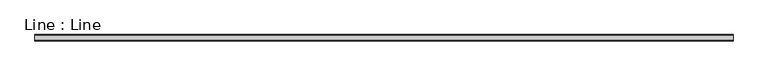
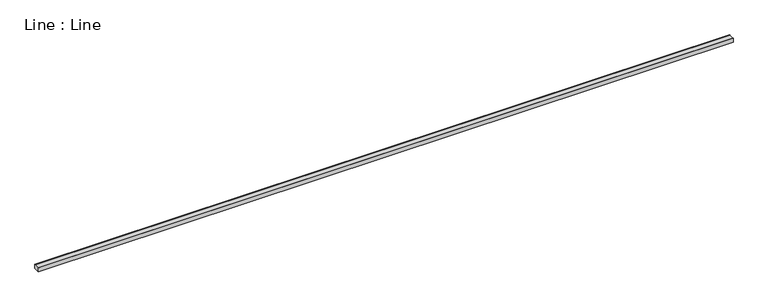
"""IFC4 building model written with IfcOpenShell, lengths in millimetres: light fixture geometry, Line : Line."""

from ifc_helpers import new_model, si_unit, frame, origin, place, context, project, spatial, polyline, outline, extrude, source, transform, mapped, element, save


def line_line_39116be9(model_context):
    return source(origin(), model_context, "Body", "SweptSolid", [
        extrude(outline(polyline([(-13.2699605, -0.6594598), (13.2699605, -0.6594598), (13.2699605, 0.4921885), (15.2699605, 0.4921885), (15.2699605, -18.9218892), (-15.2699605, -18.9218892), (-15.2699605, 0.4921885), (-13.2699605, 0.4921885), (-13.2699605, -0.6594598)])), frame((0.0, 0.0, 0.0), z_axis=(1.0, 0.0, 0.0), x_axis=(0.0, 1.0, 0.0)), (0.0, 0.0, 1.0), 3424.8773849),
    ])


if __name__ == "__main__":
    model = new_model("IFC4")
    model_context = context("Model", 3, world=origin())
    ifc_project = project(units=[si_unit("LENGTHUNIT", "METRE", prefix="MILLI")], contexts=[model_context])
    site = spatial("IfcSite", under=ifc_project)
    building = spatial("IfcBuilding", under=site)
    placement = place(None, origin())
    line_line_shape = line_line_39116be9(model_context)
    element("IfcLightFixture", 1, ObjectType="Line : Line", at=placement, inside=building, context=model_context, shape_type="MappedRepresentation", body=[
        mapped(line_line_shape, transform((0.0, 0.0, 0.0), x_axis=(1.0, 0.0, 0.0), y_axis=(0.0, 1.0, 0.0), z_axis=(0.0, 0.0, 1.0))),
    ])
    save(model, "model.ifc")
